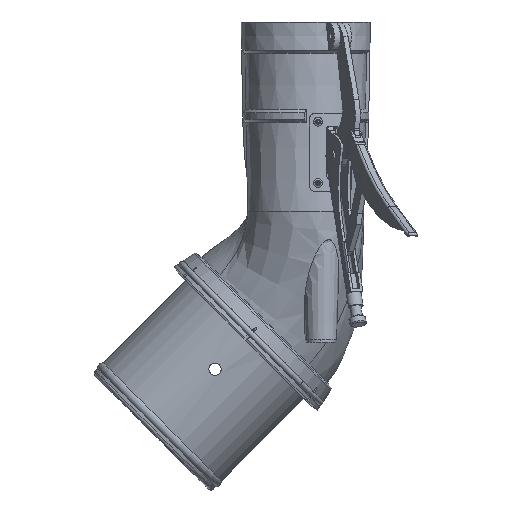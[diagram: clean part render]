
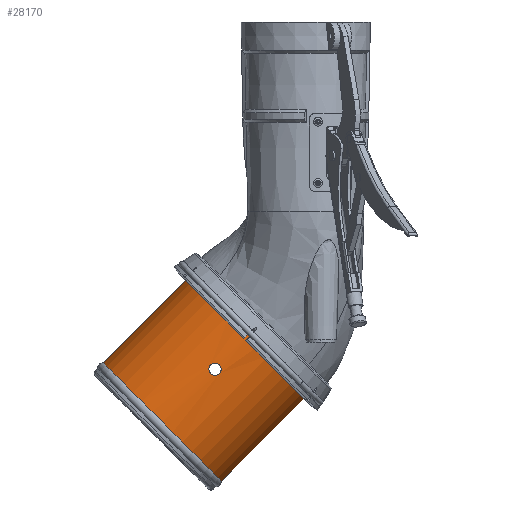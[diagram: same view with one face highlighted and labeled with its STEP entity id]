
A CAD part, left-side view. The second image highlights one B-rep face of the part: STEP entity #28170.
In plain terms, the highlighted cylindrical face has radius 75 mm (diameter 150 mm), a partial arc.
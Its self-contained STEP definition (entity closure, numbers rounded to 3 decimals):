
#25959=CARTESIAN_POINT('',(0.,121.859,0.));
#25960=DIRECTION('',(0.,-1.,0.));
#25961=DIRECTION('',(1.,0.,0.));
#25962=AXIS2_PLACEMENT_3D('',#25959,#25960,#25961);
#25969=DIRECTION('',(0.,1.,0.));
#25970=VECTOR('',#25969,110.834);
#25971=CARTESIAN_POINT('',(75.,11.025,0.));
#25972=LINE('',#25971,#25970);
#25973=CARTESIAN_POINT('',(0.,11.025,0.));
#25974=DIRECTION('',(0.,-1.,0.));
#25975=DIRECTION('',(1.,0.,0.));
#25976=AXIS2_PLACEMENT_3D('',#25973,#25974,#25975);
#25978=DIRECTION('',(0.,1.,0.));
#25979=VECTOR('',#25978,110.834);
#25980=CARTESIAN_POINT('',(-75.,11.025,0.));
#25981=LINE('',#25980,#25979);
#25982=CARTESIAN_POINT('',(-5.5,55.,74.798));
#25983=CARTESIAN_POINT('',(-5.5,55.29,74.798));
#25984=CARTESIAN_POINT('',(-5.455,55.861,
74.801));
#25985=CARTESIAN_POINT('',(-5.253,56.705,
74.816));
#25986=CARTESIAN_POINT('',(-4.922,57.505,
74.839));
#25987=CARTESIAN_POINT('',(-4.469,58.244,
74.867));
#25988=CARTESIAN_POINT('',(-3.907,58.904,
74.899));
#25989=CARTESIAN_POINT('',(-3.247,59.467,
74.931));
#25990=CARTESIAN_POINT('',(-2.508,59.921,
74.959));
#25991=CARTESIAN_POINT('',(-1.707,60.252,
74.982));
#25992=CARTESIAN_POINT('',(-0.864,60.455,
74.997));
#25993=CARTESIAN_POINT('',(0.,60.523,
75.002));
#25994=CARTESIAN_POINT('',(0.863,60.455,
74.997));
#25995=CARTESIAN_POINT('',(1.706,60.253,74.982));
#25996=CARTESIAN_POINT('',(2.507,59.921,74.959));
#25997=CARTESIAN_POINT('',(3.247,59.467,74.931));
#25998=CARTESIAN_POINT('',(3.906,58.904,74.899));
#25999=CARTESIAN_POINT('',(4.469,58.245,74.867));
#26000=CARTESIAN_POINT('',(4.921,57.506,74.839));
#26001=CARTESIAN_POINT('',(5.253,56.706,74.816));
#26002=CARTESIAN_POINT('',(5.455,55.862,74.801));
#26003=CARTESIAN_POINT('',(5.5,55.29,74.798));
#26004=CARTESIAN_POINT('',(5.5,55.,74.798));
#26006=CARTESIAN_POINT('',(5.5,55.,74.798));
#26007=CARTESIAN_POINT('',(5.5,54.71,74.798));
#26008=CARTESIAN_POINT('',(5.455,54.139,74.801));
#26009=CARTESIAN_POINT('',(5.253,53.295,74.816));
#26010=CARTESIAN_POINT('',(4.922,52.495,74.839));
#26011=CARTESIAN_POINT('',(4.469,51.756,74.867));
#26012=CARTESIAN_POINT('',(3.907,51.096,74.899));
#26013=CARTESIAN_POINT('',(3.247,50.533,74.931));
#26014=CARTESIAN_POINT('',(2.508,50.079,74.959));
#26015=CARTESIAN_POINT('',(1.707,49.748,74.982));
#26016=CARTESIAN_POINT('',(0.864,49.545,
74.997));
#26017=CARTESIAN_POINT('',(0.,49.477,
75.002));
#26018=CARTESIAN_POINT('',(-0.863,49.545,
74.997));
#26019=CARTESIAN_POINT('',(-1.706,49.747,
74.982));
#26020=CARTESIAN_POINT('',(-2.507,50.079,
74.959));
#26021=CARTESIAN_POINT('',(-3.247,50.533,
74.931));
#26022=CARTESIAN_POINT('',(-3.906,51.096,
74.899));
#26023=CARTESIAN_POINT('',(-4.469,51.755,
74.867));
#26024=CARTESIAN_POINT('',(-4.921,52.494,
74.839));
#26025=CARTESIAN_POINT('',(-5.253,53.294,
74.816));
#26026=CARTESIAN_POINT('',(-5.455,54.138,
74.801));
#26027=CARTESIAN_POINT('',(-5.5,54.71,74.798));
#26028=CARTESIAN_POINT('',(-5.5,55.,74.798));
#26415=CARTESIAN_POINT('',(75.,11.025,0.));
#26416=VERTEX_POINT('',#26415);
#26423=CARTESIAN_POINT('',(-75.,11.025,0.));
#26424=VERTEX_POINT('',#26423);
#26431=CARTESIAN_POINT('',(75.,121.859,0.));
#26433=VERTEX_POINT('',#26431);
#26439=CARTESIAN_POINT('',(-75.,121.859,0.));
#26441=VERTEX_POINT('',#26439);
#26464=CARTESIAN_POINT('',(5.5,55.,74.798));
#26466=VERTEX_POINT('',#26464);
#26472=CARTESIAN_POINT('',(-5.5,55.,74.798));
#26474=VERTEX_POINT('',#26472);
#28150=CARTESIAN_POINT('',(0.,0.,0.));
#28151=DIRECTION('',(0.,1.,0.));
#28152=DIRECTION('',(1.,0.,0.));
#28153=AXIS2_PLACEMENT_3D('',#28150,#28151,#28152);
#28154=CYLINDRICAL_SURFACE('',#28153,75.);
#28156=ORIENTED_EDGE('',*,*,#28155,.F.);
#28158=ORIENTED_EDGE('',*,*,#28157,.T.);
#28160=ORIENTED_EDGE('',*,*,#28159,.T.);
#28161=ORIENTED_EDGE('',*,*,#28143,.F.);
#28162=EDGE_LOOP('',(#28156,#28158,#28160,#28161));
#28163=FACE_OUTER_BOUND('',#28162,.F.);
#28165=ORIENTED_EDGE('',*,*,#28164,.F.);
#28167=ORIENTED_EDGE('',*,*,#28166,.F.);
#28168=EDGE_LOOP('',(#28165,#28167));
#28169=FACE_BOUND('',#28168,.F.);
#25963=CIRCLE('',#25962,75.);
#25977=CIRCLE('',#25976,75.);
#26005=B_SPLINE_CURVE_WITH_KNOTS('',3,(#25982,#25983,#25984,#25985,#25986,
#25987,#25988,#25989,#25990,#25991,#25992,#25993,#25994,#25995,#25996,#25997,
#25998,#25999,#26000,#26001,#26002,#26003,#26004),.UNSPECIFIED.,.F.,.F.,(4,1,1,
1,1,1,1,1,1,1,1,1,1,1,1,1,1,1,1,1,4),(0.,0.05,0.1,0.15,0.2,0.25,
0.3,0.35,0.4,0.45,0.5,0.55,0.6,0.65,0.7,0.75,0.8,0.85,
0.9,0.95,1.),.UNSPECIFIED.);
#26029=B_SPLINE_CURVE_WITH_KNOTS('',3,(#26006,#26007,#26008,#26009,#26010,
#26011,#26012,#26013,#26014,#26015,#26016,#26017,#26018,#26019,#26020,#26021,
#26022,#26023,#26024,#26025,#26026,#26027,#26028),.UNSPECIFIED.,.F.,.F.,(4,1,1,
1,1,1,1,1,1,1,1,1,1,1,1,1,1,1,1,1,4),(0.,0.05,0.1,0.15,0.2,0.25,
0.3,0.35,0.4,0.45,0.5,0.55,0.6,0.65,0.7,0.75,0.8,0.85,
0.9,0.95,1.),.UNSPECIFIED.);
#28143=EDGE_CURVE('',#26433,#26441,#25963,.T.);
#28155=EDGE_CURVE('',#26416,#26433,#25972,.T.);
#28157=EDGE_CURVE('',#26416,#26424,#25977,.T.);
#28159=EDGE_CURVE('',#26424,#26441,#25981,.T.);
#28164=EDGE_CURVE('',#26474,#26466,#26005,.T.);
#28166=EDGE_CURVE('',#26466,#26474,#26029,.T.);
#28170=ADVANCED_FACE('',(#28163,#28169),#28154,.T.);
